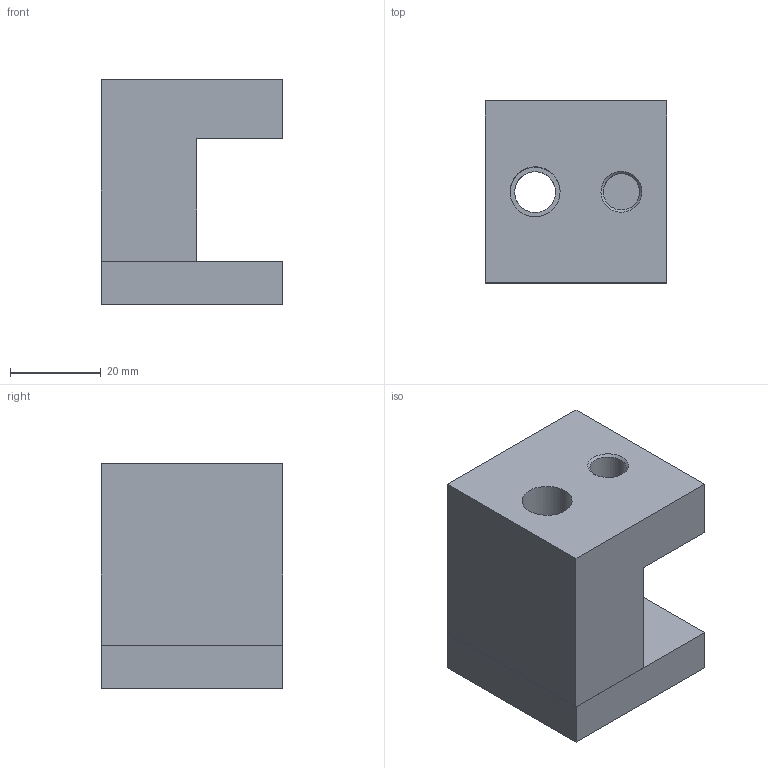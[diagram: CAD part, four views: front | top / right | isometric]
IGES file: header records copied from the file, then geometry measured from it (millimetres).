
Global section: file name: 08.40; native system: Autodesk Inventor 2019; preprocessor: unknown; author: CAD5; date: 20190612.150951; units: millimetre
Bounding box: 40 x 40 x 49.5 mm (x, y, z)
Volume: 53063.6 mm3; surface area: 16549.5 mm2
Topology: 4 solids, 4 shells, 58 faces, 156 edges, 110 vertices
Faces by surface type: bspline 58
